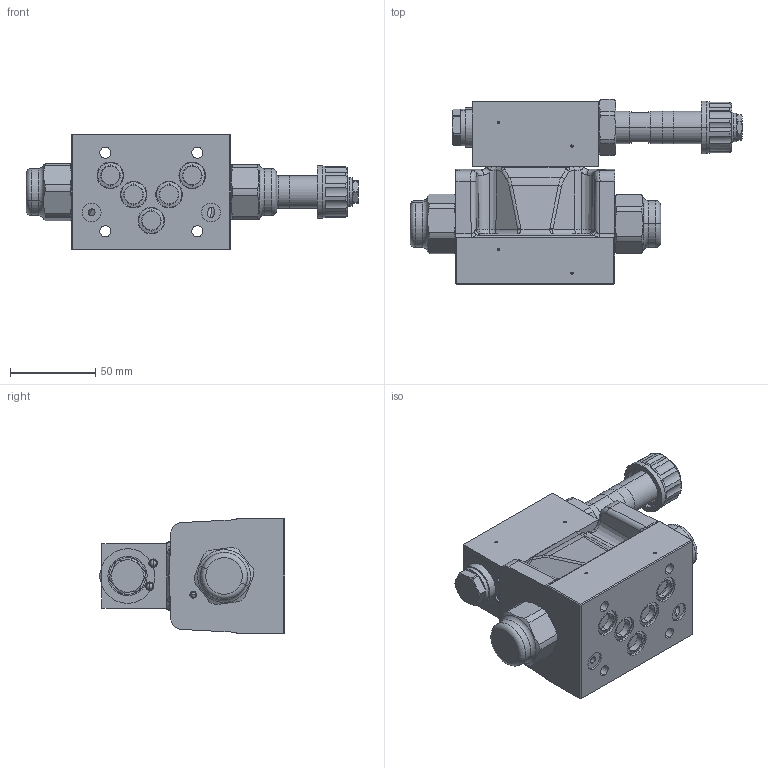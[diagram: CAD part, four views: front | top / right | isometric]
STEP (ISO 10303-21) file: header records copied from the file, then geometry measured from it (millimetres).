
FILE_DESCRIPTION (( 'STEP AP214' ), '1' );
FILE_NAME ('WDPFA10-4_2-Bside-ti_ae_xi_xe.STEP', '2017-06-15T07:57:10', ( '' ), ( '' ), 'SwSTEP 2.0', 'SolidWorks 2016', '' );
FILE_SCHEMA (( 'AUTOMOTIVE_DESIGN' ));
Length unit declared in the file: millimetre
Products named in the file (1): WDPFA10-4_2-Bside-ti_ae_xi_xe
Bounding box: 194.7 x 108.59 x 68 mm (x, y, z)
Volume: 534291.7 mm3; surface area: 78496.3 mm2
Topology: 11 solids, 22 shells, 1286 faces, 3072 edges, 1886 vertices
Faces by surface type: plane 447, cylinder 388, cone 215, bspline 151, torus 45, sphere 40
Entity records: 57810 total; most frequent: CARTESIAN_POINT 15048, ORIENTED_EDGE 6024, DIRECTION 5741, EDGE_CURVE 3012, AXIS2_PLACEMENT_3D 2157, VERTEX_POINT 1886, LINE 1427, VECTOR 1427
